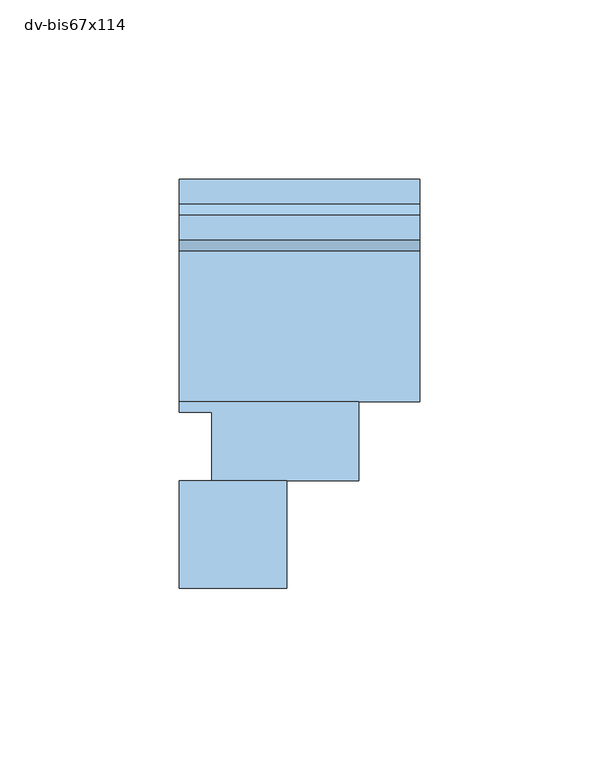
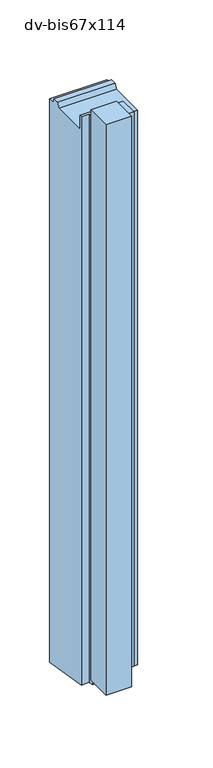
"""IFC4 building model written with IfcOpenShell, lengths in millimetres: window geometry, NLRS_30_WIN_zijstijl_sh_gen_TOBA-JM : dv-bis67x114."""

from ifc_helpers import new_model, si_unit, origin, place, context, project, spatial, faceted_brep, source, transform, mapped, element, save


def dv_bis67x114_6041befc(model_context):
    return source(origin(), model_context, "Body", "Brep", [
        faceted_brep([(50.0, -84.0, 750.0), (50.0, -84.0, 67.0), (50.0, -72.0, 67.0), (50.0, -72.0, 51.0), (50.0, -62.0, 49.2361111), (50.0, -62.0, 733.0), (50.0, -62.0, 750.0), (67.0, -62.0, 49.2361111), (67.0, -62.0, 733.0), (67.0, 0.0, 38.3), (67.0, 0.0, 733.0), (67.0, -7.0, 733.0), (67.0, -10.0, 739.0), (67.0, -17.0, 739.0), (67.0, -20.0, 733.0), (0.0, 0.0, 38.3), (0.0, 0.0, 733.0), (0.0, -62.0, 750.0), (0.0, -62.0, 733.0), (0.0, -20.0, 733.0), (0.0, -17.0, 739.0), (0.0, -10.0, 739.0), (0.0, -7.0, 733.0), (0.0, -65.0, 49.7652778), (0.0, -65.0, 750.0), (9.0, -65.0, 49.7652778), (9.0, -65.0, 750.0), (9.0, -72.0, 51.0), (9.0, -72.0, 67.0), (9.0, -84.0, 67.0), (9.0, -84.0, 750.0), (0.0, -84.0, 67.0), (0.0, -84.0, 770.0), (30.0, -84.0, 770.0), (30.0, -84.0, 750.0), (0.0, -114.0, 67.0), (0.0, -114.0, 770.0), (30.0, -114.0, 67.0), (30.0, -114.0, 770.0), (30.0, -84.0, 67.0)], [[[0, 1, 2, 3, 4, 5, 6]], [[5, 4, 7, 8]], [[8, 7, 9, 10, 11, 12, 13, 14]], [[10, 9, 15, 16]], [[17, 18, 19, 20, 21, 22, 16, 15, 23, 24]], [[24, 23, 25, 26]], [[26, 25, 27, 28, 29, 30]], [[30, 29, 31, 32, 33, 34]], [[32, 31, 35, 36]], [[36, 35, 37, 38]], [[27, 25, 23, 15, 9, 7, 4, 3]], [[3, 2, 28, 27]], [[2, 1, 39, 37, 35, 31, 29, 28]], [[34, 39, 1, 0]], [[38, 37, 39, 34, 33]], [[36, 38, 33, 32]], [[17, 24, 26, 30, 34, 0, 6]], [[6, 5, 18, 17]], [[19, 18, 5, 8, 14]], [[14, 13, 20, 19]], [[13, 12, 21, 20]], [[12, 11, 22, 21]], [[11, 10, 16, 22]]]),
    ])


if __name__ == "__main__":
    model = new_model("IFC4")
    model_context = context("Model", 3, world=origin())
    ifc_project = project(units=[si_unit("LENGTHUNIT", "METRE", prefix="MILLI")], contexts=[model_context])
    site = spatial("IfcSite", under=ifc_project)
    building = spatial("IfcBuilding", under=site)
    placement = place(None, origin())
    dv_bis67x114_shape = dv_bis67x114_6041befc(model_context)
    element("IfcWindow", 1, ObjectType="NLRS_30_WIN_zijstijl_sh_gen_TOBA-JM : dv-bis67x114", at=placement, inside=building, context=model_context, shape_type="MappedRepresentation", body=[
        mapped(dv_bis67x114_shape, transform((0.0, 0.0, 0.0), x_axis=(1.0, 0.0, 0.0), y_axis=(0.0, 1.0, 0.0), z_axis=(0.0, 0.0, 1.0))),
    ])
    save(model, "model.ifc")
